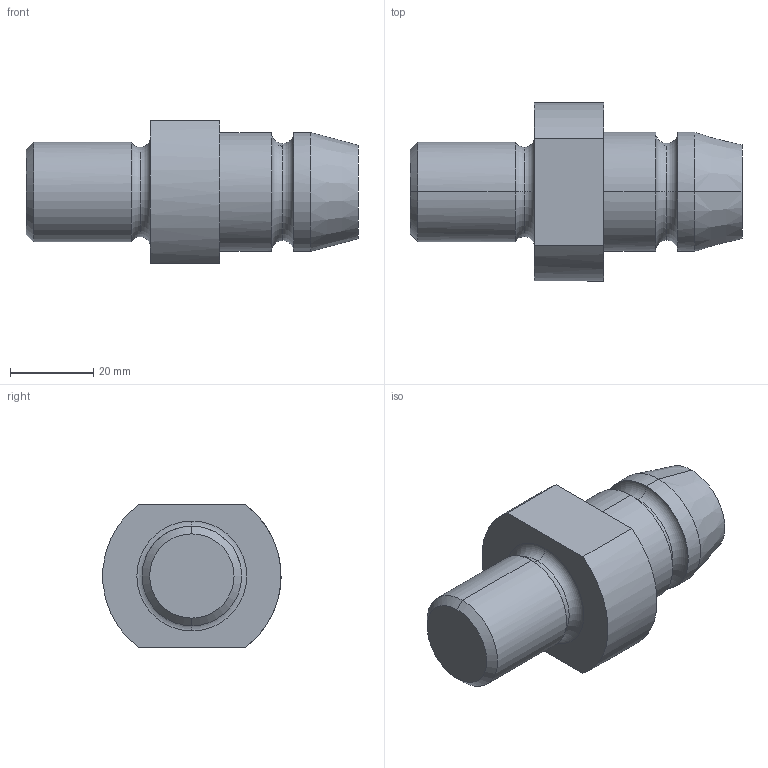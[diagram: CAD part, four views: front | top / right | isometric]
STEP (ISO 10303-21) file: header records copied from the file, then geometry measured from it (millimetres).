
FILE_DESCRIPTION(('CATIA V5 STEP Exchange'),'2;1');
FILE_NAME('C:\Users\Utente\Desktop\IO LAVORO\3D X SITO CF\X SITO\PLASTICA\AGS\AGS3421M24.stp','2021-02-21T19:44:29+00:00',('none'),('none'),'CATIA Version 5 Release 20 GA (IN-10)','CATIA V5 STEP AP203','none');
FILE_SCHEMA(('CONFIG_CONTROL_DESIGN'));
Length unit declared in the file: millimetre
Products named in the file (1): AGS3421M24
Bounding box: 80 x 42.92 x 34.4 mm (x, y, z)
Volume: 54015.2 mm3; surface area: 9854.5 mm2
Topology: 1 solids, 1 shells, 26 faces, 70 edges, 48 vertices
Faces by surface type: cylinder 8, torus 8, plane 6, cone 4
Entity records: 926 total; most frequent: CARTESIAN_POINT 245, ORIENTED_EDGE 140, DIRECTION 111, EDGE_CURVE 70, AXIS2_PLACEMENT_3D 68, VERTEX_POINT 48, CIRCLE 41, EDGE_LOOP 28
